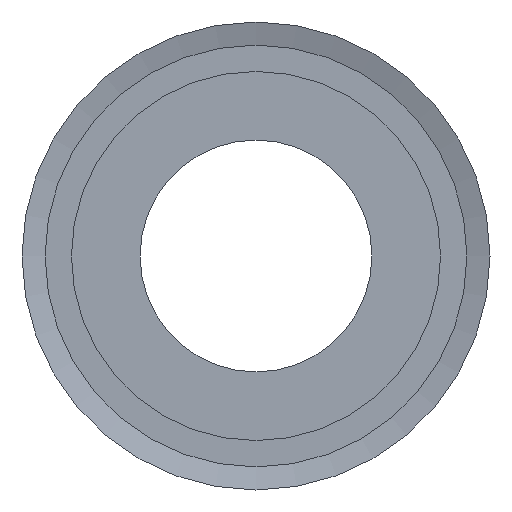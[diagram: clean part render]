
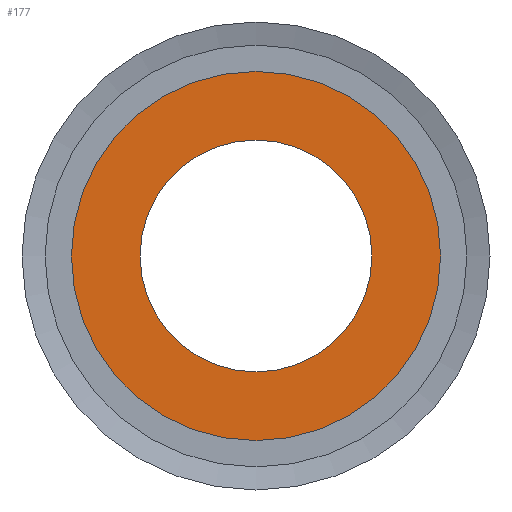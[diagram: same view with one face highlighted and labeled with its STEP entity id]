
A CAD part, left-side view. The second image highlights one B-rep face of the part: STEP entity #177.
In plain terms, the highlighted planar face has unit normal (-1, 0, 0).
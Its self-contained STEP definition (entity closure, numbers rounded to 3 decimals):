
#20=PLANE('',#199);
#28=FACE_BOUND('',#63,.T.);
#44=FACE_OUTER_BOUND('',#62,.T.);
#62=EDGE_LOOP('',(#142));
#63=EDGE_LOOP('',(#143));
#90=CIRCLE('',#194,28.);
#94=CIRCLE('',#200,17.582);
#106=VERTEX_POINT('',#293);
#110=VERTEX_POINT('',#303);
#122=EDGE_CURVE('',#106,#106,#90,.T.);
#126=EDGE_CURVE('',#110,#110,#94,.T.);
#142=ORIENTED_EDGE('',*,*,#122,.T.);
#143=ORIENTED_EDGE('',*,*,#126,.F.);
#177=ADVANCED_FACE('',(#44,#28),#20,.T.);
#194=AXIS2_PLACEMENT_3D('',#294,#229,#230);
#199=AXIS2_PLACEMENT_3D('',#302,#239,#240);
#200=AXIS2_PLACEMENT_3D('',#304,#241,#242);
#229=DIRECTION('center_axis',(-1.,0.,0.));
#230=DIRECTION('ref_axis',(0.,0.,1.));
#239=DIRECTION('center_axis',(-1.,0.,0.));
#240=DIRECTION('ref_axis',(0.,0.,1.));
#241=DIRECTION('center_axis',(-1.,0.,0.));
#242=DIRECTION('ref_axis',(0.,0.,1.));
#293=CARTESIAN_POINT('',(-12.555,-7.474,0.));
#294=CARTESIAN_POINT('Origin',(-12.555,20.526,0.));
#302=CARTESIAN_POINT('Origin',(-12.555,2.945,0.));
#303=CARTESIAN_POINT('',(-12.555,2.945,0.));
#304=CARTESIAN_POINT('Origin',(-12.555,20.526,0.));
